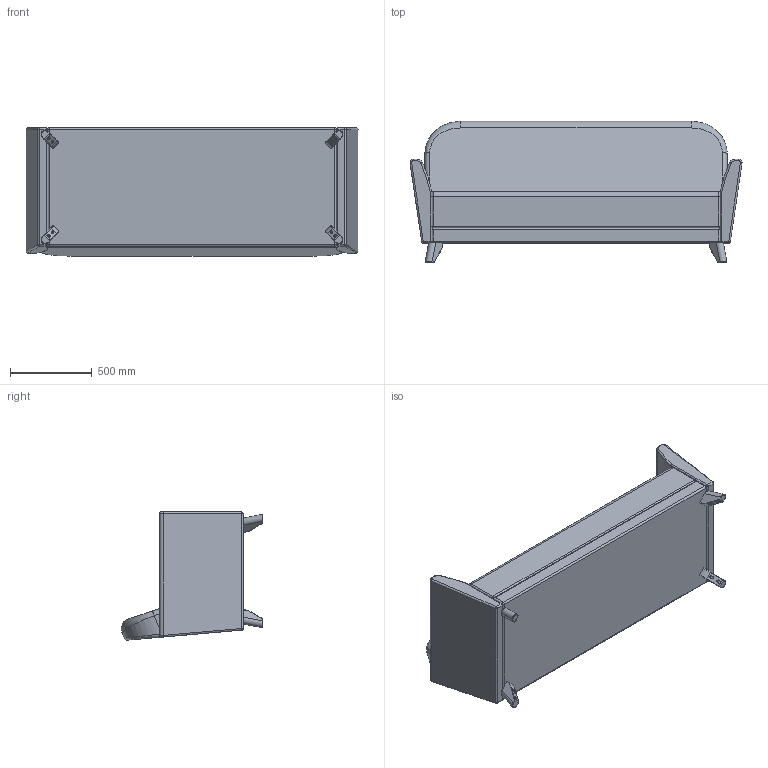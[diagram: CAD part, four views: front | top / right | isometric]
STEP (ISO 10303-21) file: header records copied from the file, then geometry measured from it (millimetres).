
FILE_DESCRIPTION(/* description */ ('3-SEATER'),/* implementation_level */ '2;1');
FILE_NAME(/* name */ 'Henley 3-Seater - STEP (Simplified).stp',/* time_stamp */ '2026-05-13T11:01:56+03:00',/* author */ ('Brian.Thangei'),/* organization */ (''),/* preprocessor_version */ 'ST-DEVELOPER v20',/* originating_system */ 'Autodesk Inventor 2025',/* authorisation */ '');
FILE_SCHEMA (('AUTOMOTIVE_DESIGN { 1 0 10303 214 3 1 1 }'));
Length unit declared in the file: millimetre
Products named in the file (1): Henley 3-Seater_2-Tone (Simplified)
Bounding box: 2026.62 x 863.05 x 782.89 mm (x, y, z)
Volume: 502862896.5 mm3; surface area: 11008047.3 mm2
Topology: 9 solids, 9 shells, 217 faces, 493 edges, 288 vertices
Faces by surface type: cylinder 84, plane 61, bspline 40, torus 18, sphere 14
Full cylindrical faces by diameter (mm): 10 x8, 16 x8
Entity records: 12773 total; most frequent: CARTESIAN_POINT 8120, ORIENTED_EDGE 958, DIRECTION 933, EDGE_CURVE 479, AXIS2_PLACEMENT_3D 370, VERTEX_POINT 288, EDGE_LOOP 241, FACE_OUTER_BOUND 217
